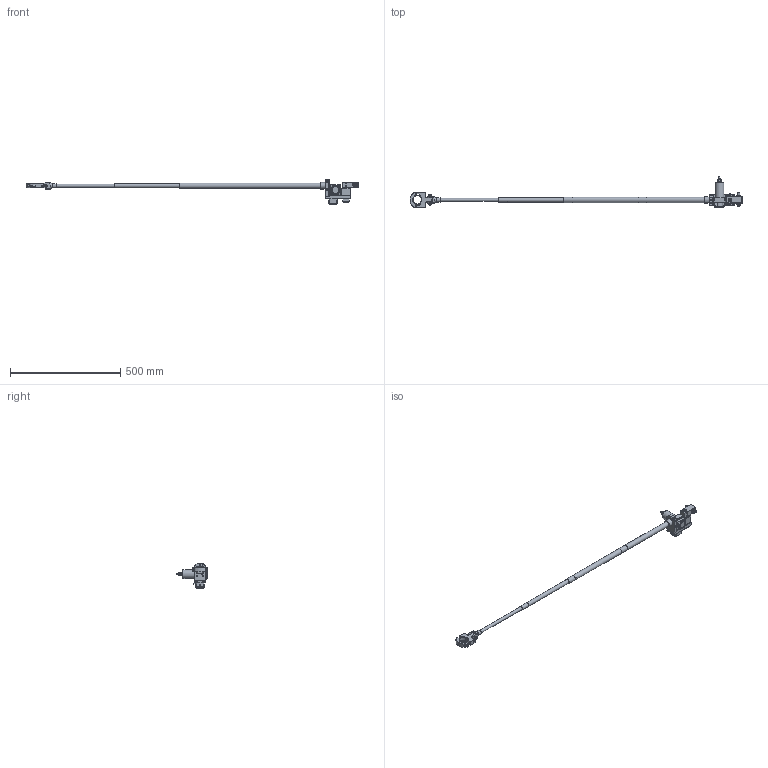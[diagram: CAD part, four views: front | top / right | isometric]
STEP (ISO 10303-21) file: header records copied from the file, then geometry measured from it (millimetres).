
FILE_DESCRIPTION( ( 'Unknown' ), '1' );
FILE_NAME( 'E:/0 Travail/0 Travaux en cours/Doga/Assemblage 2014/BIBLIOTEQUE 3D/Assemblage 2011/11-25-3636 DOGA/4-1200590-bras DMF 30 LPC_2000/4-1200590-bras DMF 30 LPC_2000.stp', 'Unknown', ( 'Unknown' ), ( 'Unknown' ), 'PSStep 14.0', 'Unknown', ' ' );
FILE_SCHEMA( ( 'AUTOMOTIVE_DESIGN { 1 0 10303 214 1 1 1 1 }' ) );
Length unit declared in the file: millimetre
Products named in the file (60): Asm Tube 19 std pour DMF30-2000 PC; Tube 14,2x16; Tube 19,2x20,8-oa1; Tube 16,2x19 std pour DMF30-2000 PC; Asm Jonc 14  std pour DMF30-2000 PC; Tube 14,2x16-oa2; 08 Z; Goupille élastique; 06 Z; CHc washer head screw M6 x 30; Jonc 14 std pour DMF30-2000 SP ; H M06 Nyl; Chape pince pour DMF30; Asm Pince pour DMF30; Pince pour DMF30; Placement; Collier; CHC M6x45 fileté sous tete; CHC M6x45 fileté sous tete-oa3; Asm Tube 24 standart pour DMF30-2000 PC; Tube 19,2x20,8; bague de serrage pour DMF30 PC; Tube 21x24 pour DMF 30-2000 PC; axe dia16 pour capteur d'angle assemblé DMF30 PC; Aimant; Rondelle AS1226; Rondelle AS1226-oa0; Butée à aiguilles AXK1226; Anneau élastique pour arbre 12; Axe Ø16 pour DMF30 PC ; sous-ensemble carbone pour DMF30-2000 PC; SX50-1250-10V-KA-M4; SX50-1250-10V-KA-M4_12; SX50-1250-10V-KA-M4_13; SX50-1250-10V-KA-M4_10; SX50-1250-10V-KA-M4_11; SX50-1250-10V-KA-M4_14; SX50-1250-10V-KA-M4_15; SX50-1250-10V-KA-M4_1; SX50-1250-10V-KA-M4_7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
Assembly tree (61 placements, depth 4):
  Assem1
    CHC M8x55
    platine support capteur DMF30 PC
    platine fixation carbone pour DMF30 PC
    fourreau  pour DMF30 PC
    Capteur de position angulaire QUADRO-R
    Boitier de dérivation
    Rondelle AS1730  x2
    Butée à aiguilles AXK1730
    support fixation bras DMF30 PC
    Roulement à aiguilles HK1616  x2
    rondelle pour axe équerre DMF30 PC
    axe pour équerres DMF30 PC
    SX50-1250-10V-KA-M4
      SX50-1250-10V-KA-M4_12
      SX50-1250-10V-KA-M4_13
      SX50-1250-10V-KA-M4_10
      SX50-1250-10V-KA-M4_11
      SX50-1250-10V-KA-M4_14
      SX50-1250-10V-KA-M4_15
      SX50-1250-10V-KA-M4_1
      SX50-1250-10V-KA-M4_7
      SX50-1250-10V-KA-M4
      SX50-1250-10V-KA-M4_4
      SX50-1250-10V-KA-M4_2
      SX50-1250-10V-KA-M4_3
      SX50-1250-10V-KA-M4_6
      SX50-1250-10V-KA-M4_5
      SX50-1250-10V-KA-M4_16
    axe dia16 pour capteur d'angle assemblé DMF30 PC
      Aimant
      Rondelle AS1226
      Rondelle AS1226-oa0
      Butée à aiguilles AXK1226
      Anneau élastique pour arbre 12
      Axe Ø16 pour DMF30 PC 
    sous-ensemble carbone pour DMF30-2000 PC
      Asm Tube 24 standart pour DMF30-2000 PC
        Tube 19,2x20,8
        bague de serrage pour DMF30 PC
        Tube 21x24 pour DMF 30-2000 PC
      Asm Tube 19 std pour DMF30-2000 PC
        Tube 14,2x16
        Tube 19,2x20,8-oa1
        Tube 16,2x19 std pour DMF30-2000 PC
      Asm Jonc 14  std pour DMF30-2000 PC
        Tube 14,2x16-oa2
        08 Z
        Goupille élastique
        06 Z
        CHc washer head screw M6 x 30
        Jonc 14 std pour DMF30-2000 SP 
        H M06 Nyl
        Chape pince pour DMF30
      Asm Pince pour DMF30
        Pince pour DMF30
        Placement
        Collier
        CHC M6x45 fileté sous tete
        CHC M6x45 fileté sous tete-oa3
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Bounding box: 1507.79 x 142 x 112.7 mm (x, y, z)
Volume: 571152.2 mm3; surface area: 376014.7 mm2
Topology: 39 solids, 208 shells, 1124 faces, 3270 edges, 2370 vertices
Faces by surface type: plane 558, cylinder 456, cone 79, revolution 14, torus 12, bspline 3, sphere 2
Full cylindrical faces by diameter (mm): 1 x2, 1.221 x1, 2.459 x6, 2.5 x4, 3.1 x3, 3.2 x5, 3.242 x2, 3.5 x1, 4.134 x10, 4.3 x2, 4.5 x1, 4.917 x8, 4.918 x1, 5 x3, 5.2 x4, 5.8 x2, 6 x10, 6.2 x4, 6.5 x2, 6.647 x3, 7 x5, 7.8 x1, 8 x8, 8.2 x2, 8.5 x1, 9 x4, 9.3 x1, 9.547 x1, 10 x3, 10.5 x2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
Entity records: 52546 total; most frequent: CARTESIAN_POINT 18197, DIRECTION 5210, ORIENTED_EDGE 4804, EDGE_CURVE 2901, VERTEX_POINT 2277, AXIS2_PLACEMENT_3D 2007, EDGE_LOOP 1552, LINE 1182
